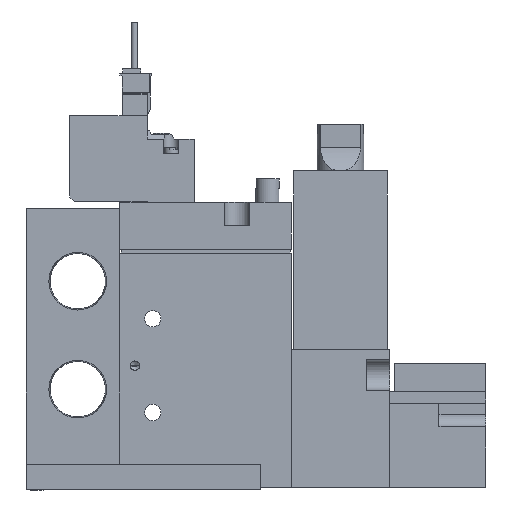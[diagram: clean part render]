
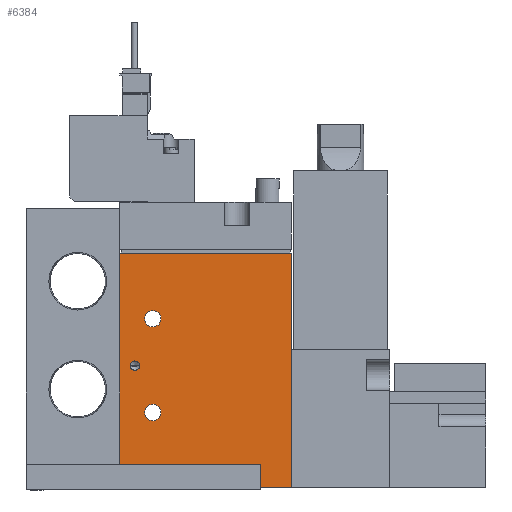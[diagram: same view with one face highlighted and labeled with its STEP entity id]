
A CAD part, left-side view. The second image highlights one B-rep face of the part: STEP entity #6384.
In plain terms, the highlighted planar face has unit normal (-1, 0, 0) as drawn and (1, 0, 0) by its records, which use the part's own axes.
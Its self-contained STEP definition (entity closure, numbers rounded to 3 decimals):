
#6384=ADVANCED_FACE('',(#9926,#9927,#9928,#9929),#9930,.F.);
#9926=FACE_BOUND('',#16198,.T.);
#9927=FACE_BOUND('',#16199,.T.);
#9928=FACE_BOUND('',#16200,.T.);
#9929=FACE_OUTER_BOUND('',#16201,.T.);
#9930=PLANE('',#16202);
#16198=EDGE_LOOP('',(#25178));
#16199=EDGE_LOOP('',(#25179));
#16200=EDGE_LOOP('',(#25180));
#16201=EDGE_LOOP('',(#25181,#25182,#25183,#25184));
#16202=AXIS2_PLACEMENT_3D('',#25185,#25186,#25187);
#25178=ORIENTED_EDGE('',*,*,#44202,.F.);
#25179=ORIENTED_EDGE('',*,*,#44199,.T.);
#25180=ORIENTED_EDGE('',*,*,#44201,.T.);
#25181=ORIENTED_EDGE('',*,*,#44203,.T.);
#25182=ORIENTED_EDGE('',*,*,#44204,.F.);
#25183=ORIENTED_EDGE('',*,*,#44205,.F.);
#25184=ORIENTED_EDGE('',*,*,#44206,.T.);
#25185=CARTESIAN_POINT('',(8.5,-19.444,50.0));
#25186=DIRECTION('',(-1.0,0.0,0.0));
#25187=DIRECTION('',(0.0,0.0,1.0));
#44199=EDGE_CURVE('',#51823,#51823,#51824,.T.);
#44201=EDGE_CURVE('',#51827,#51827,#51828,.T.);
#44202=EDGE_CURVE('',#51829,#51829,#51830,.T.);
#44203=EDGE_CURVE('',#51831,#51832,#51833,.T.);
#44204=EDGE_CURVE('',#51834,#51832,#51835,.T.);
#44205=EDGE_CURVE('',#51836,#51834,#51837,.T.);
#44206=EDGE_CURVE('',#51836,#51831,#51838,.T.);
#51823=VERTEX_POINT('',#64672);
#51824=CIRCLE('',#64673,1.75);
#51827=VERTEX_POINT('',#64676);
#51828=CIRCLE('',#64677,1.75);
#51829=VERTEX_POINT('',#64678);
#51830=CIRCLE('',#64679,1.0);
#51831=VERTEX_POINT('',#64680);
#51832=VERTEX_POINT('',#64681);
#51833=LINE('',#64682,#64683);
#51834=VERTEX_POINT('',#64684);
#51835=LINE('',#64685,#64686);
#51836=VERTEX_POINT('',#64687);
#51837=LINE('',#64688,#64689);
#51838=LINE('',#64690,#64691);
#64672=CARTESIAN_POINT('',(8.5,-10.694,36.0));
#64673=AXIS2_PLACEMENT_3D('',#80515,#80516,#80517);
#64676=CARTESIAN_POINT('',(8.5,-10.694,16.0));
#64677=AXIS2_PLACEMENT_3D('',#80521,#80522,#80523);
#64678=CARTESIAN_POINT('',(8.5,-17.244,26.0));
#64679=AXIS2_PLACEMENT_3D('',#80524,#80525,#80526);
#64680=CARTESIAN_POINT('',(8.5,-19.444,0.0));
#64681=CARTESIAN_POINT('',(8.5,17.056,0.0));
#64682=CARTESIAN_POINT('',(8.5,-19.444,0.0));
#64683=VECTOR('',#80527,1.0);
#64684=CARTESIAN_POINT('',(8.5,17.056,50.0));
#64685=CARTESIAN_POINT('',(8.5,17.056,50.0));
#64686=VECTOR('',#80528,1.0);
#64687=CARTESIAN_POINT('',(8.5,-19.444,50.0));
#64688=CARTESIAN_POINT('',(8.5,-19.444,50.0));
#64689=VECTOR('',#80529,1.0);
#64690=CARTESIAN_POINT('',(8.5,-19.444,50.0));
#64691=VECTOR('',#80530,1.0);
#80515=CARTESIAN_POINT('',(8.5,-12.444,36.0));
#80516=DIRECTION('',(-1.0,0.0,0.0));
#80517=DIRECTION('',(0.0,1.0,0.0));
#80521=CARTESIAN_POINT('',(8.5,-12.444,16.0));
#80522=DIRECTION('',(-1.0,0.0,0.0));
#80523=DIRECTION('',(0.0,1.0,0.0));
#80524=CARTESIAN_POINT('',(8.5,-16.244,26.0));
#80525=DIRECTION('',(1.0,0.,0.0));
#80526=DIRECTION('',(0.,-1.0,0.0));
#80527=DIRECTION('',(0.0,1.0,0.0));
#80528=DIRECTION('',(0.0,0.0,-1.0));
#80529=DIRECTION('',(0.0,1.0,0.0));
#80530=DIRECTION('',(0.0,0.0,-1.0));
